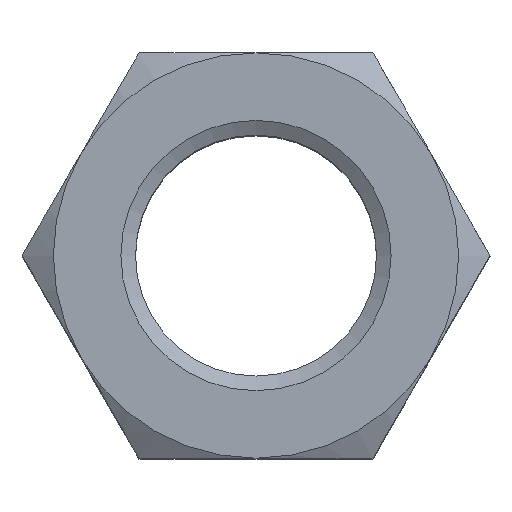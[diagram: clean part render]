
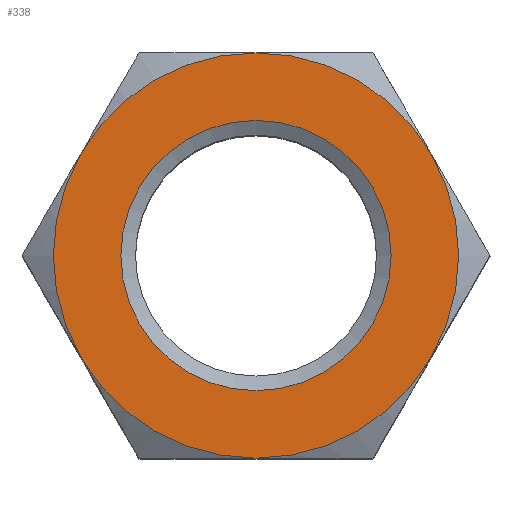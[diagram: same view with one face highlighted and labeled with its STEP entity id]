
A CAD part, top view. The second image highlights one B-rep face of the part: STEP entity #338.
In plain terms, the highlighted planar face has unit normal (0, 0, 1) as drawn and (1, 0, 0) by its records, which use the part's own axes.
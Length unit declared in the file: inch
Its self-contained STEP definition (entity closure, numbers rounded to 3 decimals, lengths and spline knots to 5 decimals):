
#48=FACE_BOUND('',#87,.T.);
#50=PLANE('',#410);
#62=FACE_OUTER_BOUND('',#86,.T.);
#86=EDGE_LOOP('',(#241,#242,#243,#244,#245,#246));
#87=EDGE_LOOP('',(#247));
#134=CIRCLE('',#409,0.25006);
#135=CIRCLE('',#411,0.375);
#136=CIRCLE('',#412,0.375);
#137=CIRCLE('',#413,0.375);
#138=CIRCLE('',#414,0.375);
#139=CIRCLE('',#415,0.375);
#140=CIRCLE('',#416,0.375);
#151=VERTEX_POINT('',#562);
#152=VERTEX_POINT('',#566);
#153=VERTEX_POINT('',#567);
#154=VERTEX_POINT('',#569);
#155=VERTEX_POINT('',#571);
#156=VERTEX_POINT('',#573);
#157=VERTEX_POINT('',#575);
#182=EDGE_CURVE('',#151,#151,#134,.T.);
#184=EDGE_CURVE('',#152,#153,#135,.T.);
#185=EDGE_CURVE('',#153,#154,#136,.T.);
#186=EDGE_CURVE('',#154,#155,#137,.T.);
#187=EDGE_CURVE('',#155,#156,#138,.T.);
#188=EDGE_CURVE('',#156,#157,#139,.T.);
#189=EDGE_CURVE('',#157,#152,#140,.T.);
#241=ORIENTED_EDGE('',*,*,#184,.T.);
#242=ORIENTED_EDGE('',*,*,#185,.T.);
#243=ORIENTED_EDGE('',*,*,#186,.T.);
#244=ORIENTED_EDGE('',*,*,#187,.T.);
#245=ORIENTED_EDGE('',*,*,#188,.T.);
#246=ORIENTED_EDGE('',*,*,#189,.T.);
#247=ORIENTED_EDGE('',*,*,#182,.F.);
#338=ADVANCED_FACE('',(#62,#48),#50,.T.);
#409=AXIS2_PLACEMENT_3D('',#563,#471,#472);
#410=AXIS2_PLACEMENT_3D('',#565,#474,#475);
#411=AXIS2_PLACEMENT_3D('',#568,#476,#477);
#412=AXIS2_PLACEMENT_3D('',#570,#478,#479);
#413=AXIS2_PLACEMENT_3D('',#572,#480,#481);
#414=AXIS2_PLACEMENT_3D('',#574,#482,#483);
#415=AXIS2_PLACEMENT_3D('',#576,#484,#485);
#416=AXIS2_PLACEMENT_3D('',#577,#486,#487);
#471=DIRECTION('center_axis',(1.,0.,0.));
#472=DIRECTION('ref_axis',(0.,0.,1.));
#474=DIRECTION('center_axis',(1.,0.,0.));
#475=DIRECTION('ref_axis',(0.,0.,-1.));
#476=DIRECTION('center_axis',(1.,0.,0.));
#477=DIRECTION('ref_axis',(0.,1.,0.));
#478=DIRECTION('center_axis',(1.,0.,0.));
#479=DIRECTION('ref_axis',(0.,1.,0.));
#480=DIRECTION('center_axis',(1.,0.,0.));
#481=DIRECTION('ref_axis',(0.,1.,0.));
#482=DIRECTION('center_axis',(1.,0.,0.));
#483=DIRECTION('ref_axis',(0.,1.,0.));
#484=DIRECTION('center_axis',(1.,0.,0.));
#485=DIRECTION('ref_axis',(0.,1.,0.));
#486=DIRECTION('center_axis',(1.,0.,0.));
#487=DIRECTION('ref_axis',(0.,1.,0.));
#562=CARTESIAN_POINT('',(0.448,0.,-0.25006));
#563=CARTESIAN_POINT('Origin',(0.448,0.,0.));
#565=CARTESIAN_POINT('Origin',(0.448,0.,0.));
#566=CARTESIAN_POINT('',(0.448,-0.32476,-0.1875));
#567=CARTESIAN_POINT('',(0.448,0.,-0.375));
#568=CARTESIAN_POINT('Origin',(0.448,0.,0.));
#569=CARTESIAN_POINT('',(0.448,0.32476,-0.1875));
#570=CARTESIAN_POINT('Origin',(0.448,0.,0.));
#571=CARTESIAN_POINT('',(0.448,0.32476,0.1875));
#572=CARTESIAN_POINT('Origin',(0.448,0.,0.));
#573=CARTESIAN_POINT('',(0.448,0.,0.375));
#574=CARTESIAN_POINT('Origin',(0.448,0.,0.));
#575=CARTESIAN_POINT('',(0.448,-0.32476,0.1875));
#576=CARTESIAN_POINT('Origin',(0.448,0.,0.));
#577=CARTESIAN_POINT('Origin',(0.448,0.,0.));
